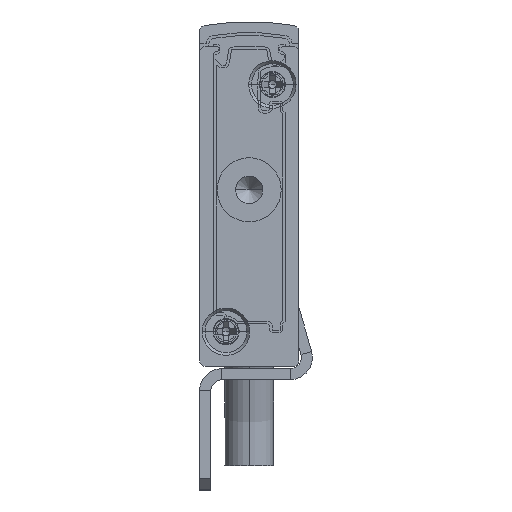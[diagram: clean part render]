
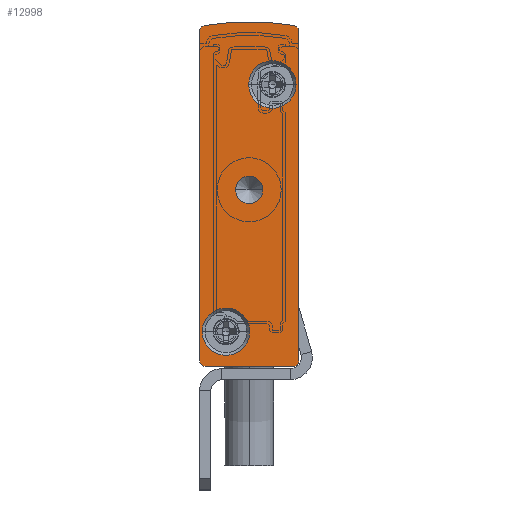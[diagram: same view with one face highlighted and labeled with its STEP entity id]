
A CAD part, front view. The second image highlights one B-rep face of the part: STEP entity #12998.
In plain terms, the highlighted planar face has unit normal (0, -1, 0).
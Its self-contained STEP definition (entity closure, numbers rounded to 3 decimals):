
#55 = DIRECTION ( 'NONE',  ( 0., 1., 0. ) ) ;
#1489 = CARTESIAN_POINT ( 'NONE',  ( -0.5, -2.5, 30.402 ) ) ;
#1664 = VECTOR ( 'NONE', #13277, 1000. ) ;
#1710 = AXIS2_PLACEMENT_3D ( 'NONE', #23688, #5137, #19855 ) ;
#1783 = EDGE_CURVE ( 'NONE', #16313, #12796, #8496, .T. ) ;
#1904 = DIRECTION ( 'NONE',  ( -1., 0., 0. ) ) ;
#1926 = AXIS2_PLACEMENT_3D ( 'NONE', #7165, #7233, #16431 ) ;
#2187 = VERTEX_POINT ( 'NONE', #11672 ) ;
#2317 = CARTESIAN_POINT ( 'NONE',  ( -0.25, -2.5, 25.55 ) ) ;
#2574 = CARTESIAN_POINT ( 'NONE',  ( -6.6, -2.5, 3.15 ) ) ;
#3309 = EDGE_CURVE ( 'NONE', #4825, #3484, #16968, .T. ) ;
#3364 = CARTESIAN_POINT ( 'NONE',  ( -4.45, -2.5, 3.15 ) ) ;
#3388 = ORIENTED_EDGE ( 'NONE', *, *, #10733, .F. ) ;
#3484 = VERTEX_POINT ( 'NONE', #8078 ) ;
#3851 = EDGE_CURVE ( 'NONE', #3484, #2187, #5272, .T. ) ;
#3924 = CARTESIAN_POINT ( 'NONE',  ( -8.75, -2.5, 3.15 ) ) ;
#4010 = FACE_BOUND ( 'NONE', #23140, .T. ) ;
#4298 = EDGE_CURVE ( 'NONE', #17681, #10577, #15936, .T. ) ;
#4405 = DIRECTION ( 'NONE',  ( -1., 0., 0. ) ) ;
#4498 = CIRCLE ( 'NONE', #4589, 2.15 ) ;
#4583 = CARTESIAN_POINT ( 'NONE',  ( -6.6, -2.5, 3.15 ) ) ;
#4584 = VERTEX_POINT ( 'NONE', #9584 ) ;
#4589 = AXIS2_PLACEMENT_3D ( 'NONE', #4583, #15859, #6295 ) ;
#4716 = VECTOR ( 'NONE', #21649, 1000. ) ;
#4787 = PLANE ( 'NONE',  #14160 ) ;
#4825 = VERTEX_POINT ( 'NONE', #12660 ) ;
#4940 = ORIENTED_EDGE ( 'NONE', *, *, #5017, .F. ) ;
#4975 = AXIS2_PLACEMENT_3D ( 'NONE', #1489, #22074, #5401 ) ;
#5017 = EDGE_CURVE ( 'NONE', #17793, #15349, #4498, .T. ) ;
#5070 = LINE ( 'NONE', #5365, #11132 ) ;
#5129 = AXIS2_PLACEMENT_3D ( 'NONE', #10922, #55, #1904 ) ;
#5137 = DIRECTION ( 'NONE',  ( 0., -1., 0. ) ) ;
#5272 = CIRCLE ( 'NONE', #4975, 0.5 ) ;
#5365 = CARTESIAN_POINT ( 'NONE',  ( 0., -2.5, 30.402 ) ) ;
#5401 = DIRECTION ( 'NONE',  ( -1., 0., 0. ) ) ;
#5629 = EDGE_CURVE ( 'NONE', #4584, #15633, #18964, .T. ) ;
#5706 = AXIS2_PLACEMENT_3D ( 'NONE', #15022, #5789, #11607 ) ;
#5789 = DIRECTION ( 'NONE',  ( 0., 1., 0. ) ) ;
#6124 = DIRECTION ( 'NONE',  ( 1., 0., 0. ) ) ;
#6268 = CARTESIAN_POINT ( 'NONE',  ( -4.5, -2.5, 16. ) ) ;
#6295 = DIRECTION ( 'NONE',  ( 1., 0., 0. ) ) ;
#6347 = AXIS2_PLACEMENT_3D ( 'NONE', #2574, #21146, #6124 ) ;
#6381 = CIRCLE ( 'NONE', #9236, 2.15 ) ;
#7165 = CARTESIAN_POINT ( 'NONE',  ( -0.5, -2.5, 0.5 ) ) ;
#7233 = DIRECTION ( 'NONE',  ( 0., 1., 0. ) ) ;
#7361 = DIRECTION ( 'NONE',  ( -1., 0., 0. ) ) ;
#7421 = ORIENTED_EDGE ( 'NONE', *, *, #5629, .T. ) ;
#7554 = AXIS2_PLACEMENT_3D ( 'NONE', #6268, #17306, #4405 ) ;
#7644 = AXIS2_PLACEMENT_3D ( 'NONE', #8873, #10769, #7361 ) ;
#7724 = CARTESIAN_POINT ( 'NONE',  ( -0.5, -2.5, 0. ) ) ;
#8078 = CARTESIAN_POINT ( 'NONE',  ( -0.408, -2.5, 30.893 ) ) ;
#8476 = CARTESIAN_POINT ( 'NONE',  ( -9., -2.5, 0.5 ) ) ;
#8496 = LINE ( 'NONE', #12422, #4716 ) ;
#8873 = CARTESIAN_POINT ( 'NONE',  ( -8.5, -2.5, 30.402 ) ) ;
#9236 = AXIS2_PLACEMENT_3D ( 'NONE', #12284, #23542, #12363 ) ;
#9584 = CARTESIAN_POINT ( 'NONE',  ( -3.25, -2.5, 16. ) ) ;
#9830 = EDGE_LOOP ( 'NONE', ( #19014, #12268, #19724, #20602, #14573, #16726, #15381, #18741 ) ) ;
#10097 = CARTESIAN_POINT ( 'NONE',  ( -8.5, -2.5, 0.5 ) ) ;
#10156 = VERTEX_POINT ( 'NONE', #2317 ) ;
#10265 = CARTESIAN_POINT ( 'NONE',  ( -4.55, -2.5, 25.55 ) ) ;
#10577 = VERTEX_POINT ( 'NONE', #7724 ) ;
#10733 = EDGE_CURVE ( 'NONE', #14605, #10156, #6381, .T. ) ;
#10769 = DIRECTION ( 'NONE',  ( 0., 1., 0. ) ) ;
#10922 = CARTESIAN_POINT ( 'NONE',  ( -4.5, -2.5, 7.592 ) ) ;
#11132 = VECTOR ( 'NONE', #18239, 1000. ) ;
#11156 = CARTESIAN_POINT ( 'NONE',  ( -8.5, -2.5, 0. ) ) ;
#11607 = DIRECTION ( 'NONE',  ( -1., 0., 0. ) ) ;
#11672 = CARTESIAN_POINT ( 'NONE',  ( 0., -2.5, 30.402 ) ) ;
#12268 = ORIENTED_EDGE ( 'NONE', *, *, #1783, .F. ) ;
#12284 = CARTESIAN_POINT ( 'NONE',  ( -2.4, -2.5, 25.55 ) ) ;
#12363 = DIRECTION ( 'NONE',  ( 1., 0., 0. ) ) ;
#12422 = CARTESIAN_POINT ( 'NONE',  ( -9., -2.5, 30.402 ) ) ;
#12660 = CARTESIAN_POINT ( 'NONE',  ( -8.592, -2.5, 30.893 ) ) ;
#12796 = VERTEX_POINT ( 'NONE', #17211 ) ;
#12998 = ADVANCED_FACE ( 'NONE', ( #23798, #20563, #18854, #4010 ), #4787, .F. ) ;
#13277 = DIRECTION ( 'NONE',  ( -1., 0., 0. ) ) ;
#13858 = DIRECTION ( 'NONE',  ( 0., 1., 0. ) ) ;
#13962 = CIRCLE ( 'NONE', #7644, 0.5 ) ;
#14128 = DIRECTION ( 'NONE',  ( -1., 0., 0. ) ) ;
#14160 = AXIS2_PLACEMENT_3D ( 'NONE', #21719, #14292, #14128 ) ;
#14161 = CIRCLE ( 'NONE', #5706, 1.25 ) ;
#14292 = DIRECTION ( 'NONE',  ( 0., 1., 0. ) ) ;
#14573 = ORIENTED_EDGE ( 'NONE', *, *, #4298, .F. ) ;
#14605 = VERTEX_POINT ( 'NONE', #10265 ) ;
#14936 = LINE ( 'NONE', #11156, #1664 ) ;
#15022 = CARTESIAN_POINT ( 'NONE',  ( -4.5, -2.5, 16. ) ) ;
#15349 = VERTEX_POINT ( 'NONE', #3364 ) ;
#15381 = ORIENTED_EDGE ( 'NONE', *, *, #3851, .F. ) ;
#15435 = CIRCLE ( 'NONE', #15994, 0.5 ) ;
#15633 = VERTEX_POINT ( 'NONE', #22580 ) ;
#15859 = DIRECTION ( 'NONE',  ( 0., -1., 0. ) ) ;
#15936 = CIRCLE ( 'NONE', #1926, 0.5 ) ;
#15994 = AXIS2_PLACEMENT_3D ( 'NONE', #10097, #13858, #21502 ) ;
#16313 = VERTEX_POINT ( 'NONE', #8476 ) ;
#16431 = DIRECTION ( 'NONE',  ( -1., 0., 0. ) ) ;
#16512 = ORIENTED_EDGE ( 'NONE', *, *, #19555, .F. ) ;
#16726 = ORIENTED_EDGE ( 'NONE', *, *, #20567, .F. ) ;
#16774 = CARTESIAN_POINT ( 'NONE',  ( -8.5, -2.5, 0. ) ) ;
#16914 = EDGE_LOOP ( 'NONE', ( #16512, #4940 ) ) ;
#16968 = CIRCLE ( 'NONE', #5129, 23.658 ) ;
#17211 = CARTESIAN_POINT ( 'NONE',  ( -9., -2.5, 30.402 ) ) ;
#17306 = DIRECTION ( 'NONE',  ( 0., 1., 0. ) ) ;
#17681 = VERTEX_POINT ( 'NONE', #18927 ) ;
#17793 = VERTEX_POINT ( 'NONE', #3924 ) ;
#17972 = EDGE_CURVE ( 'NONE', #10577, #18922, #14936, .T. ) ;
#18239 = DIRECTION ( 'NONE',  ( 0., 0., -1. ) ) ;
#18445 = ORIENTED_EDGE ( 'NONE', *, *, #18818, .F. ) ;
#18741 = ORIENTED_EDGE ( 'NONE', *, *, #3309, .F. ) ;
#18818 = EDGE_CURVE ( 'NONE', #10156, #14605, #20436, .T. ) ;
#18854 = FACE_OUTER_BOUND ( 'NONE', #9830, .T. ) ;
#18922 = VERTEX_POINT ( 'NONE', #16774 ) ;
#18927 = CARTESIAN_POINT ( 'NONE',  ( 0., -2.5, 0.5 ) ) ;
#18964 = CIRCLE ( 'NONE', #7554, 1.25 ) ;
#19014 = ORIENTED_EDGE ( 'NONE', *, *, #21431, .F. ) ;
#19169 = EDGE_CURVE ( 'NONE', #18922, #16313, #15435, .T. ) ;
#19426 = EDGE_CURVE ( 'NONE', #15633, #4584, #14161, .T. ) ;
#19555 = EDGE_CURVE ( 'NONE', #15349, #17793, #22024, .T. ) ;
#19724 = ORIENTED_EDGE ( 'NONE', *, *, #19169, .F. ) ;
#19855 = DIRECTION ( 'NONE',  ( 1., 0., 0. ) ) ;
#20436 = CIRCLE ( 'NONE', #1710, 2.15 ) ;
#20563 = FACE_BOUND ( 'NONE', #16914, .T. ) ;
#20567 = EDGE_CURVE ( 'NONE', #2187, #17681, #5070, .T. ) ;
#20602 = ORIENTED_EDGE ( 'NONE', *, *, #17972, .F. ) ;
#21146 = DIRECTION ( 'NONE',  ( 0., -1., 0. ) ) ;
#21431 = EDGE_CURVE ( 'NONE', #12796, #4825, #13962, .T. ) ;
#21502 = DIRECTION ( 'NONE',  ( -1., 0., 0. ) ) ;
#21649 = DIRECTION ( 'NONE',  ( 0., 0., 1. ) ) ;
#21719 = CARTESIAN_POINT ( 'NONE',  ( -8.5, -2.5, 30.402 ) ) ;
#22024 = CIRCLE ( 'NONE', #6347, 2.15 ) ;
#22074 = DIRECTION ( 'NONE',  ( 0., 1., 0. ) ) ;
#22522 = EDGE_LOOP ( 'NONE', ( #18445, #3388 ) ) ;
#22580 = CARTESIAN_POINT ( 'NONE',  ( -5.75, -2.5, 16. ) ) ;
#22980 = ORIENTED_EDGE ( 'NONE', *, *, #19426, .T. ) ;
#23140 = EDGE_LOOP ( 'NONE', ( #22980, #7421 ) ) ;
#23542 = DIRECTION ( 'NONE',  ( 0., -1., 0. ) ) ;
#23688 = CARTESIAN_POINT ( 'NONE',  ( -2.4, -2.5, 25.55 ) ) ;
#23798 = FACE_BOUND ( 'NONE', #22522, .T. ) ;
